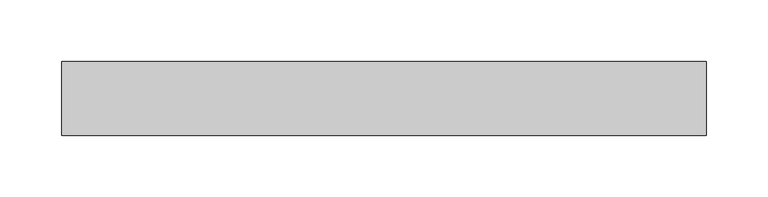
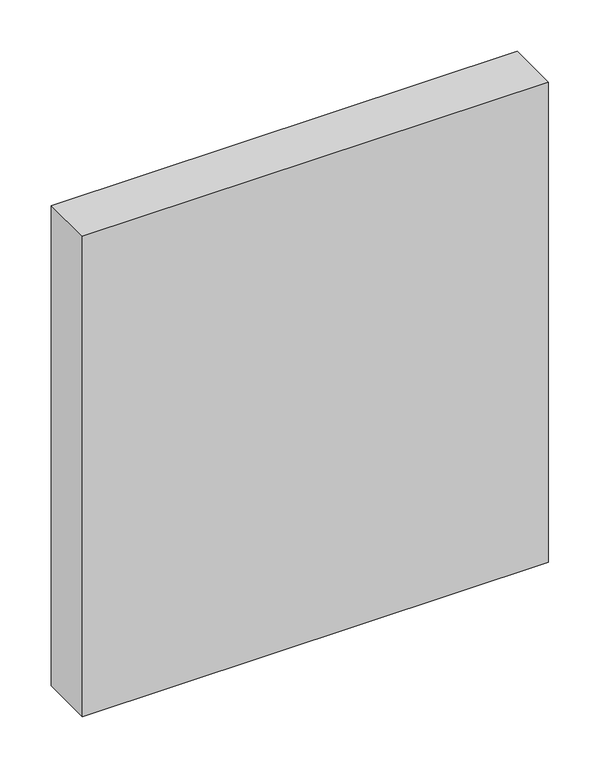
"""IFC4 building model written with IfcOpenShell, lengths in millimetres: plate geometry, Системная панель : Алюкобонд серый."""

from ifc_helpers import new_model, si_unit, origin, origin_with_axes, place, context, project, spatial, polyline, outline, extrude, source, transform, mapped, element, save


def plate_e0754953(model_context):
    return source(origin(), model_context, "Body", "SweptSolid", [
        extrude(outline(polyline([(261.6342601, -49.5), (-261.6342601, -49.5), (-261.6342601, 10.5), (261.6342601, 10.5), (261.6342601, -49.5)])), origin_with_axes(), (0.0, 0.0, 1.0), 570.0),
    ])


if __name__ == "__main__":
    model = new_model("IFC4")
    model_context = context("Model", 3, world=origin())
    ifc_project = project(units=[si_unit("LENGTHUNIT", "METRE", prefix="MILLI")], contexts=[model_context])
    site = spatial("IfcSite", under=ifc_project)
    building = spatial("IfcBuilding", under=site)
    placement = place(None, origin())
    plate_shape = plate_e0754953(model_context)
    element("IfcPlate", 1, ObjectType="Системная панель : Алюкобонд серый", at=placement, inside=building, context=model_context, shape_type="MappedRepresentation", body=[
        mapped(plate_shape, transform((0.0, 0.0, 0.0), x_axis=(1.0, 0.0, 0.0), y_axis=(0.0, 1.0, 0.0), z_axis=(0.0, 0.0, 1.0))),
    ])
    save(model, "model.ifc")
